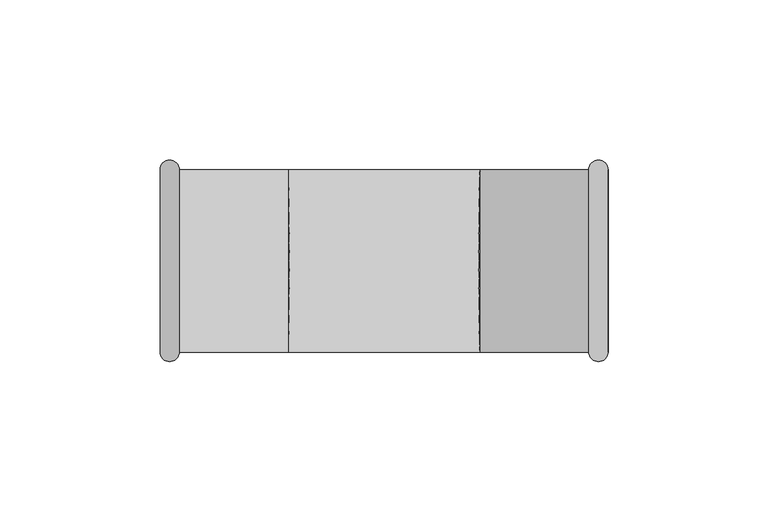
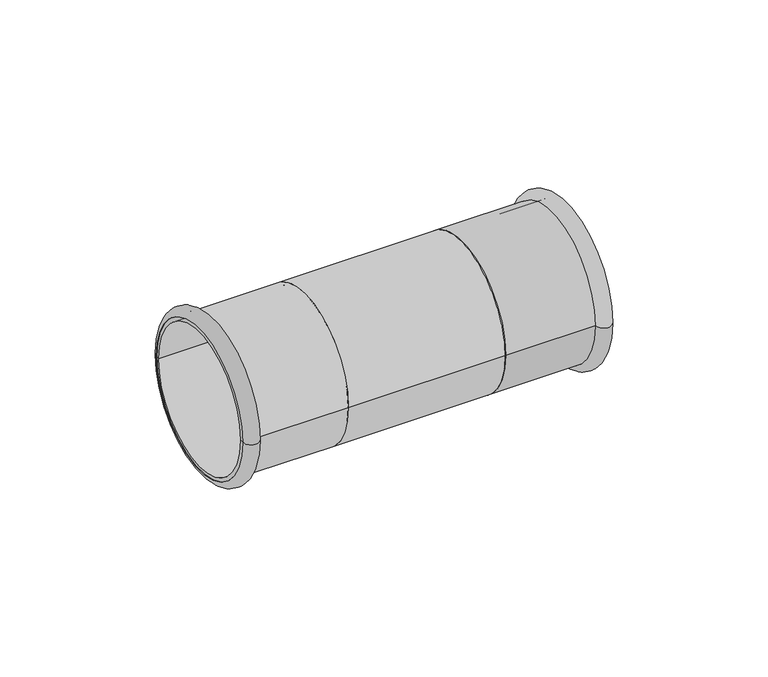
"""IFC4 building model written with IfcOpenShell, lengths in millimetres: pipe fitting geometry, NLRS_50_PIF_UN_Geberit Mapress Therm overschuifsok_PRO_3207553 : DN12-100 / d15-108 - OD."""

from ifc_helpers import new_model, si_unit, point, frame, origin, origin_2d, place, context, project, spatial, polyline, circle_curve, ellipse_curve, trimmed, segment, composite_curve, outline, extrude, source, transform, mapped, element, save
from ifc_brep_helpers import plane_surface, cylinder_surface, revolved_surface, advanced_brep


def pipe_fitting_f14cd62b(model_context):
    return source(origin(), model_context, "Body", "SolidModel", [
        advanced_brep(
        [(-70.0, 28.5, 0.0), (-70.0, -28.5, 0.0), (-63.9987073, -28.5, 0.0), (-63.9987073, 28.5, 0.0)],
        [
            (0, 1, circle_curve(frame((-70.0, 0.0, 0.0), z_axis=(-1.0, 0.0, 0.0), x_axis=(0.0, -1.0, 0.0)), 28.5)),
            (1, 2),
            (2, 3, circle_curve(frame((-63.9987073, 0.0, 0.0), z_axis=(1.0, 0.0, 0.0), x_axis=(0.0, -1.0, 0.0)), 28.5)),
            (3, 0),
            (1, 0, circle_curve(frame((-70.0, 0.0, 0.0), z_axis=(-1.0, 0.0, 0.0), x_axis=(0.0, -1.0, 0.0)), 28.5)),
            (3, 2, circle_curve(frame((-63.9987073, 0.0, 0.0), z_axis=(1.0, 0.0, 0.0), x_axis=(0.0, -1.0, 0.0)), 28.5)),
            (2, 1, circle_curve(frame((-66.9993536, -28.5, 0.0), z_axis=(0.0, 0.0, -1.0), x_axis=(-1.0, 0.0, 0.0)), 3.0006464)),
            (0, 3, circle_curve(frame((-66.9993536, 28.5, 0.0), z_axis=(0.0, 0.0, -1.0), x_axis=(-1.0, 0.0, 0.0)), 3.0006464)),
        ],
        [
            revolved_surface(polyline([(-63.9987073, -28.5, 0.0), (-70.0, -28.5, 0.0)]), (-30.0, 0.0, 0.0), (1.0, 0.0, 0.0)),
            revolved_surface(trimmed(ellipse_curve(frame((-66.9993536, -28.5, 0.0), z_axis=(0.0, 0.0, 1.0), x_axis=(-1.0, 0.0, 0.0)), 3.0006464, 3.0006464), [point((-70.0, -28.5, 0.0))], [point((-63.9987073, -28.5, 0.0))], True, "CARTESIAN"), (-30.0, 0.0, 0.0), (1.0, 0.0, 0.0)),
        ],
        [
            (0, [[1, 2, 3, 4]]),
            (0, [[5, -4, 6, -2]]),
            (1, [[-3, 7, -1, 8]]),
            (1, [[-6, -8, -5, -7]]),
        ],
    ),
        advanced_brep(
        [(-70.0, 27.0, 0.0), (-70.0, -27.0, 0.0), (-29.0, -27.0, 0.0), (-29.0, 27.0, 0.0), (-70.0, 28.5, 0.0), (-70.0, -28.5, 0.0), (-30.0, 28.5, 0.0), (-30.0, -28.5, 0.0)],
        [
            (0, 1, circle_curve(frame((-70.0, 0.0, 0.0), z_axis=(-1.0, 0.0, 0.0), x_axis=(0.0, -1.0, 0.0)), 27.0)),
            (1, 2),
            (2, 3, circle_curve(frame((-29.0, 0.0, 0.0), z_axis=(1.0, 0.0, 0.0), x_axis=(0.0, -1.0, 0.0)), 27.0)),
            (3, 0),
            (1, 0, circle_curve(frame((-70.0, 0.0, 0.0), z_axis=(-1.0, 0.0, 0.0), x_axis=(0.0, -1.0, 0.0)), 27.0)),
            (3, 2, circle_curve(frame((-29.0, 0.0, 0.0), z_axis=(1.0, 0.0, 0.0), x_axis=(0.0, -1.0, 0.0)), 27.0)),
            (4, 5, circle_curve(frame((-70.0, 0.0, 0.0), z_axis=(-1.0, 0.0, 0.0), x_axis=(0.0, -1.0, 0.0)), 28.5)),
            (5, 1),
            (0, 4),
            (5, 4, circle_curve(frame((-70.0, 0.0, 0.0), z_axis=(-1.0, 0.0, 0.0), x_axis=(0.0, -1.0, 0.0)), 28.5)),
            (6, 7, circle_curve(frame((-30.0, 0.0, 0.0), z_axis=(-1.0, 0.0, 0.0), x_axis=(0.0, -1.0, 0.0)), 28.5)),
            (7, 5),
            (4, 6),
            (7, 6, circle_curve(frame((-30.0, 0.0, 0.0), z_axis=(-1.0, 0.0, 0.0), x_axis=(0.0, -1.0, 0.0)), 28.5)),
            (2, 7),
            (6, 3),
        ],
        [
            revolved_surface(polyline([(-29.0, -27.0, 0.0), (-70.0, -27.0, 0.0)]), (-30.0, 0.0, 0.0), (1.0, 0.0, 0.0)),
            plane_surface(frame((-70.0, 0.0, 0.0), z_axis=(-1.0, 0.0, 0.0), x_axis=(0.0, -1.0, 0.0))),
            cylinder_surface(frame((-30.0, 0.0, 0.0), z_axis=(1.0, 0.0, 0.0), x_axis=(0.0, -1.0, 0.0)), 28.5),
            revolved_surface(polyline([(-30.0, -28.5, 0.0), (-29.0, -27.0, 0.0)]), (-30.0, 0.0, 0.0), (1.0, 0.0, 0.0)),
        ],
        [
            (0, [[1, 2, 3, 4]]),
            (0, [[5, -4, 6, -2]]),
            (1, [[7, 8, -1, 9]]),
            (1, [[10, -9, -5, -8]]),
            (2, [[11, 12, -7, 13]]),
            (2, [[14, -13, -10, -12]]),
            (3, [[-3, 15, -11, 16]]),
            (3, [[-6, -16, -14, -15]]),
        ],
    ),
        advanced_brep(
        [(70.0, -28.5, 0.0), (70.0, 28.5, 0.0), (63.9987073, 28.5, 0.0), (63.9987073, -28.5, 0.0)],
        [
            (0, 1, circle_curve(frame((70.0, 0.0, 0.0), z_axis=(1.0, 0.0, 0.0), x_axis=(0.0, 1.0, 0.0)), 28.5)),
            (1, 2),
            (2, 3, circle_curve(frame((63.9987073, 0.0, 0.0), z_axis=(-1.0, 0.0, 0.0), x_axis=(0.0, 1.0, 0.0)), 28.5)),
            (3, 0),
            (1, 0, circle_curve(frame((70.0, 0.0, 0.0), z_axis=(1.0, 0.0, 0.0), x_axis=(0.0, 1.0, 0.0)), 28.5)),
            (3, 2, circle_curve(frame((63.9987073, 0.0, 0.0), z_axis=(-1.0, 0.0, 0.0), x_axis=(0.0, 1.0, 0.0)), 28.5)),
            (2, 1, circle_curve(frame((66.9993536, 28.5, 0.0), z_axis=(0.0, 0.0, -1.0), x_axis=(1.0, 0.0, 0.0)), 3.0006464)),
            (0, 3, circle_curve(frame((66.9993536, -28.5, 0.0), z_axis=(0.0, 0.0, -1.0), x_axis=(1.0, 0.0, 0.0)), 3.0006464)),
        ],
        [
            revolved_surface(polyline([(63.9987073, 28.5, 0.0), (70.0, 28.5, 0.0)]), (30.0, 0.0, 0.0), (-1.0, 0.0, 0.0)),
            revolved_surface(trimmed(ellipse_curve(frame((66.9993536, 28.5, 0.0), z_axis=(0.0, 0.0, 1.0), x_axis=(1.0, 0.0, 0.0)), 3.0006464, 3.0006464), [point((70.0, 28.5, 0.0))], [point((63.9987073, 28.5, 0.0))], True, "CARTESIAN"), (30.0, 0.0, 0.0), (-1.0, 0.0, 0.0)),
        ],
        [
            (0, [[1, 2, 3, 4]]),
            (0, [[5, -4, 6, -2]]),
            (1, [[-3, 7, -1, 8]]),
            (1, [[-6, -8, -5, -7]]),
        ],
    ),
        advanced_brep(
        [(70.0, -27.0, 0.0), (70.0, 27.0, 0.0), (29.0, 27.0, 0.0), (29.0, -27.0, 0.0), (70.0, -28.5, 0.0), (70.0, 28.5, 0.0), (30.0, -28.5, 0.0), (30.0, 28.5, 0.0)],
        [
            (0, 1, circle_curve(frame((70.0, 0.0, 0.0), z_axis=(1.0, 0.0, 0.0), x_axis=(0.0, 1.0, 0.0)), 27.0)),
            (1, 2),
            (2, 3, circle_curve(frame((29.0, 0.0, 0.0), z_axis=(-1.0, 0.0, 0.0), x_axis=(0.0, 1.0, 0.0)), 27.0)),
            (3, 0),
            (1, 0, circle_curve(frame((70.0, 0.0, 0.0), z_axis=(1.0, 0.0, 0.0), x_axis=(0.0, 1.0, 0.0)), 27.0)),
            (3, 2, circle_curve(frame((29.0, 0.0, 0.0), z_axis=(-1.0, 0.0, 0.0), x_axis=(0.0, 1.0, 0.0)), 27.0)),
            (4, 5, circle_curve(frame((70.0, 0.0, 0.0), z_axis=(1.0, 0.0, 0.0), x_axis=(0.0, 1.0, 0.0)), 28.5)),
            (5, 1),
            (0, 4),
            (5, 4, circle_curve(frame((70.0, 0.0, 0.0), z_axis=(1.0, 0.0, 0.0), x_axis=(0.0, 1.0, 0.0)), 28.5)),
            (6, 7, circle_curve(frame((30.0, 0.0, 0.0), z_axis=(1.0, 0.0, 0.0), x_axis=(0.0, 1.0, 0.0)), 28.5)),
            (7, 5),
            (4, 6),
            (7, 6, circle_curve(frame((30.0, 0.0, 0.0), z_axis=(1.0, 0.0, 0.0), x_axis=(0.0, 1.0, 0.0)), 28.5)),
            (2, 7),
            (6, 3),
        ],
        [
            revolved_surface(polyline([(29.0, 27.0, 0.0), (70.0, 27.0, 0.0)]), (30.0, 0.0, 0.0), (-1.0, 0.0, 0.0)),
            plane_surface(frame((70.0, 0.0, 0.0), z_axis=(1.0, 0.0, 0.0), x_axis=(0.0, 1.0, 0.0))),
            cylinder_surface(frame((30.0, 0.0, 0.0), z_axis=(-1.0, 0.0, 0.0), x_axis=(0.0, 1.0, 0.0)), 28.5),
            revolved_surface(polyline([(30.0, 28.5, 0.0), (29.0, 27.0, 0.0)]), (30.0, 0.0, 0.0), (-1.0, 0.0, 0.0)),
        ],
        [
            (0, [[1, 2, 3, 4]]),
            (0, [[5, -4, 6, -2]]),
            (1, [[7, 8, -1, 9]]),
            (1, [[10, -9, -5, -8]]),
            (2, [[11, 12, -7, 13]]),
            (2, [[14, -13, -10, -12]]),
            (3, [[-3, 15, -11, 16]]),
            (3, [[-6, -16, -14, -15]]),
        ],
    ),
        extrude(outline(composite_curve([segment(trimmed(circle_curve(origin_2d(), 28.5), [point((-28.5, 0.0))], [point((28.5, 0.0))], False, "CARTESIAN"), True, "CONTINUOUS"), segment(trimmed(circle_curve(origin_2d(), 28.5), [point((28.5, 0.0))], [point((-28.5, 0.0))], False, "CARTESIAN"), True, "CONTINUOUS")], self_intersect=False)), frame((-30.0, 0.0, 0.0), z_axis=(1.0, 0.0, 0.0), x_axis=(0.0, 1.0, 0.0)), (0.0, 0.0, 1.0), 60.0),
    ])


if __name__ == "__main__":
    model = new_model("IFC4")
    model_context = context("Model", 3, world=origin())
    ifc_project = project(units=[si_unit("LENGTHUNIT", "METRE", prefix="MILLI")], contexts=[model_context])
    site = spatial("IfcSite", under=ifc_project)
    building = spatial("IfcBuilding", under=site)
    placement = place(None, origin())
    pipe_fitting_shape = pipe_fitting_f14cd62b(model_context)
    element("IfcPipeFitting", 1, ObjectType="NLRS_50_PIF_UN_Geberit Mapress Therm overschuifsok_PRO_3207553 : DN12-100 / d15-108 - OD", at=placement, inside=building, context=model_context, shape_type="MappedRepresentation", body=[
        mapped(pipe_fitting_shape, transform((0.0, 0.0, 0.0), x_axis=(1.0, 0.0, 0.0), y_axis=(0.0, 1.0, 0.0), z_axis=(0.0, 0.0, 1.0))),
    ])
    save(model, "model.ifc")
